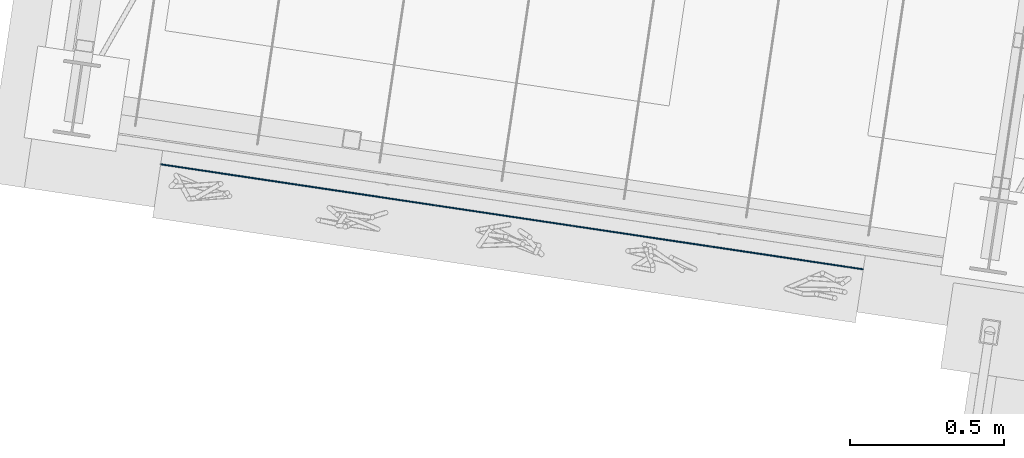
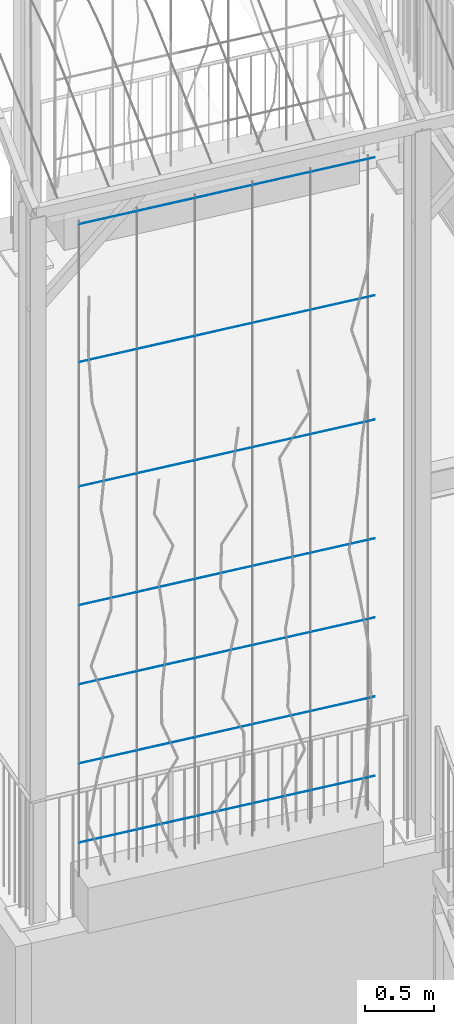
# One storey, part 9 of 142: 7 members, 1 element without a shape of its own.
"""IFC4 building model written with IfcOpenShell, lengths in metres."""

from ifc_helpers import new_model, si_unit, direction, frame, origin_with_axes, place, context, subcontext, project, spatial, circle, extrude, material, material_profile, profile_set, profile_usage, type_object, element, aggregate, save


model = new_model("IFC4")

# Units and contexts
model_context = context("Model", 3, precision=1e-05, world=origin_with_axes(), true_north=direction((0.0, 1.0)))
body_context = subcontext(model_context, "Body", "Model", "MODEL_VIEW")
ifc_project = project(units=[si_unit("VOLUMEUNIT", "CUBIC_METRE"), si_unit("LENGTHUNIT", "METRE"), si_unit("AREAUNIT", "SQUARE_METRE")], contexts=[model_context])

# Site, building, storey
site_placement = place(None, origin_with_axes())
site = spatial("IfcSite", under=ifc_project, at=site_placement, Name="Lares · Rua das Mercês · artigo 4771")
building_placement = place(site_placement, frame((12.0, 10.2, 13.9), z_axis=(0.0, 0.0, 1.0), x_axis=(0.989015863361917, -0.147809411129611, 0.0)))
building = spatial("IfcBuilding", under=site, at=building_placement, Name="Casa Sobreposta")
storey_placement = place(building_placement, origin_with_axes())
storey = spatial("IfcBuildingStorey", under=building, at=storey_placement, Name="00 · Habitação e estacionamento", Elevation=13.9)

# Assembly, members
assembly_placement = place(storey_placement, origin_with_axes())
assembly = element("IfcElementAssembly", 1, at=assembly_placement, inside=storey, Name="Fachada sul e pátio · estrutura e trepadeiras", ObjectType="LIVING_SHADE_TRELLIS", PredefinedType="USERDEFINED")
ifc_material = material(Name="Aço galvanizado / Stahl verzinkt", Category="steel")
ifc_material_profile = material_profile(ifc_material, circle(Radius=0.002))
ifc_profile_set = profile_set([ifc_material_profile], Name="D0.004")
ifc_profile_usage_1 = profile_usage(ifc_profile_set)
member_type = type_object("IfcMemberType", Name="D0.004 / galvanized", PredefinedType="NOTDEFINED", material=ifc_profile_set)
member_1_placement = place(assembly_placement, frame((-5.7, -1.61, 0.65), z_axis=(1.0, 0.0, 0.0), x_axis=(0.0, -1.0, 0.0)))
member_1 = element("IfcMember", 2, at=member_1_placement, type_object=member_type, material=ifc_profile_usage_1, Name="Trepadeiras · fio horizontal", context=body_context, shape_type="SweptSolid", body=[
    extrude(circle(Radius=0.002), origin_with_axes(), (0.0, 0.0, 1.0), 2.3),
])
ifc_profile_usage_2 = profile_usage(ifc_profile_set)
member_2_placement = place(assembly_placement, frame((-5.7, -1.61, 1.35), z_axis=(1.0, 0.0, 0.0), x_axis=(0.0, -1.0, 0.0)))
member_2 = element("IfcMember", 3, at=member_2_placement, type_object=member_type, material=ifc_profile_usage_2, Name="Trepadeiras · fio horizontal", context=body_context, shape_type="SweptSolid", body=[
    extrude(circle(Radius=0.002), origin_with_axes(), (0.0, 0.0, 1.0), 2.3),
])
ifc_profile_usage_3 = profile_usage(ifc_profile_set)
member_3_placement = place(assembly_placement, frame((-5.7, -1.61, 2.05), z_axis=(1.0, 0.0, 0.0), x_axis=(0.0, -1.0, 0.0)))
member_3 = element("IfcMember", 4, at=member_3_placement, type_object=member_type, material=ifc_profile_usage_3, Name="Trepadeiras · fio horizontal", context=body_context, shape_type="SweptSolid", body=[
    extrude(circle(Radius=0.002), origin_with_axes(), (0.0, 0.0, 1.0), 2.3),
])
ifc_profile_usage_4 = profile_usage(ifc_profile_set)
member_4_placement = place(assembly_placement, frame((-5.7, -1.61, 2.75), z_axis=(1.0, 0.0, 0.0), x_axis=(0.0, -1.0, 0.0)))
member_4 = element("IfcMember", 5, at=member_4_placement, type_object=member_type, material=ifc_profile_usage_4, Name="Trepadeiras · fio horizontal", context=body_context, shape_type="SweptSolid", body=[
    extrude(circle(Radius=0.002), origin_with_axes(), (0.0, 0.0, 1.0), 2.3),
])
ifc_profile_usage_5 = profile_usage(ifc_profile_set)
member_5_placement = place(assembly_placement, frame((-5.7, -1.61, 3.8), z_axis=(1.0, 0.0, 0.0), x_axis=(0.0, -1.0, 0.0)))
member_5 = element("IfcMember", 6, at=member_5_placement, type_object=member_type, material=ifc_profile_usage_5, Name="Trepadeiras · fio horizontal", context=body_context, shape_type="SweptSolid", body=[
    extrude(circle(Radius=0.002), origin_with_axes(), (0.0, 0.0, 1.0), 2.3),
])
ifc_profile_usage_6 = profile_usage(ifc_profile_set)
member_6_placement = place(assembly_placement, frame((-5.7, -1.61, 4.9), z_axis=(1.0, 0.0, 0.0), x_axis=(0.0, -1.0, 0.0)))
member_6 = element("IfcMember", 7, at=member_6_placement, type_object=member_type, material=ifc_profile_usage_6, Name="Trepadeiras · fio horizontal", context=body_context, shape_type="SweptSolid", body=[
    extrude(circle(Radius=0.002), origin_with_axes(), (0.0, 0.0, 1.0), 2.3),
])
ifc_profile_usage_7 = profile_usage(ifc_profile_set)
member_7_placement = place(assembly_placement, frame((-5.7, -1.61, 6.12), z_axis=(1.0, 0.0, 0.0), x_axis=(0.0, -1.0, 0.0)))
member_7 = element("IfcMember", 8, at=member_7_placement, type_object=member_type, material=ifc_profile_usage_7, Name="Trepadeiras · fio horizontal", context=body_context, shape_type="SweptSolid", body=[
    extrude(circle(Radius=0.002), origin_with_axes(), (0.0, 0.0, 1.0), 2.3),
])
aggregate(assembly, [member_1, member_2, member_3, member_4, member_5, member_6, member_7])

save(model, "model.ifc")
